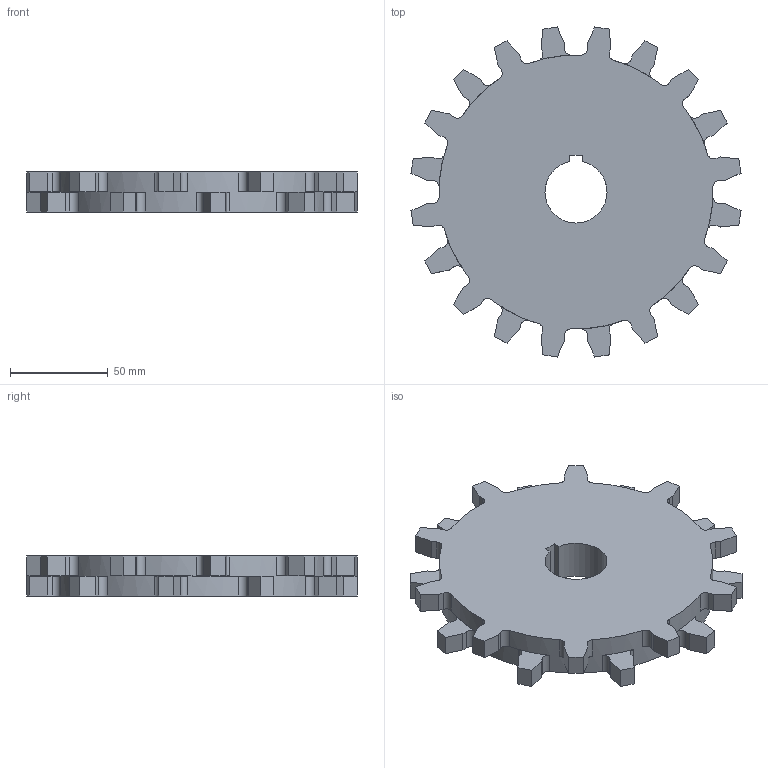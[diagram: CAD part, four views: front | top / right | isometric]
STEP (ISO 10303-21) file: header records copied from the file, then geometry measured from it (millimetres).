
FILE_DESCRIPTION((''),'2;1');
FILE_NAME('S2600_SPROCKET_65_RND','2008-12-12T',('jmumphre'),(''),'PRO/ENGINEER BY PARAMETRIC TECHNOLOGY CORPORATION, 2008150','PRO/ENGINEER BY PARAMETRIC TECHNOLOGY CORPORATION, 2008150','');
FILE_SCHEMA(('CONFIG_CONTROL_DESIGN'));
Length unit declared in the file: inch
Products named in the file (1): S2600_SPROCKET_65_RND
Bounding box: 168.73 x 168.73 x 20.45 mm (x, y, z)
Volume: 330536.4 mm3; surface area: 51723.9 mm2
Topology: 1 solids, 1 shells, 168 faces, 498 edges, 332 vertices
Faces by surface type: plane 125, cylinder 43
Entity records: 5672 total; most frequent: CARTESIAN_POINT 998, ORIENTED_EDGE 996, DIRECTION 960, EDGE_CURVE 498, VECTOR 372, LINE 372, VERTEX_POINT 332, AXIS2_PLACEMENT_3D 294
